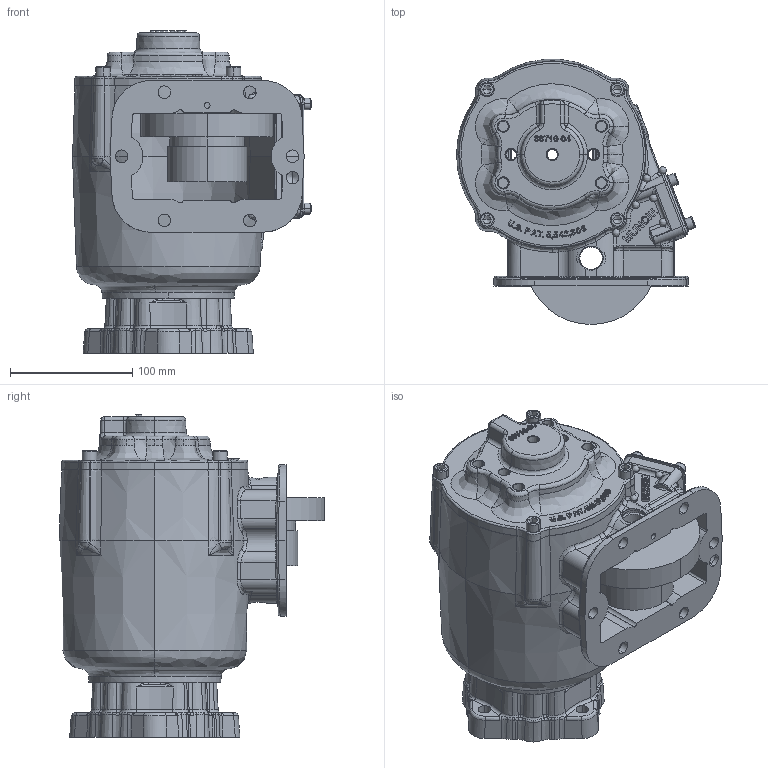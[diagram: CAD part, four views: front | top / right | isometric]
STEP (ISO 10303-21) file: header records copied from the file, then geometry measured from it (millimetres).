
FILE_DESCRIPTION (( 'STEP AP203' ), '1' );
FILE_NAME ('CS6S-XXXXX-X1IX.STEP', '2011-11-29T15:38:18', ( 'User' ), ( 'Muncie Power Products, Inc.' ), 'SwSTEP 2.0', 'SolidWorks 2011', '' );
FILE_SCHEMA (( 'CONFIG_CONTROL_DESIGN' ));
Products named in the file (3): CS6S-XXXXX-X1IX; 14T39406-1; CS6S-XXXXX-X16X
Assembly tree (2 placements, depth 2):
  CS6S-XXXXX-X1IX
    CS6S-XXXXX-X16X
    14T39406-1
Bounding box: 195.33 x 216.75 x 263.71 mm (x, y, z)
Volume: 197187 mm3; surface area: 412334.4 mm2
Topology: 1 solids, 13 shells, 2283 faces, 6034 edges, 3771 vertices
Faces by surface type: bspline 995, cylinder 451, plane 448, cone 324, torus 65
Entity records: 172077 total; most frequent: CARTESIAN_POINT 123777, ORIENTED_EDGE 11838, DIRECTION 6907, EDGE_CURVE 5920, VERTEX_POINT 3771, B_SPLINE_CURVE_WITH_KNOTS 2610, EDGE_LOOP 2499, AXIS2_PLACEMENT_3D 2477
